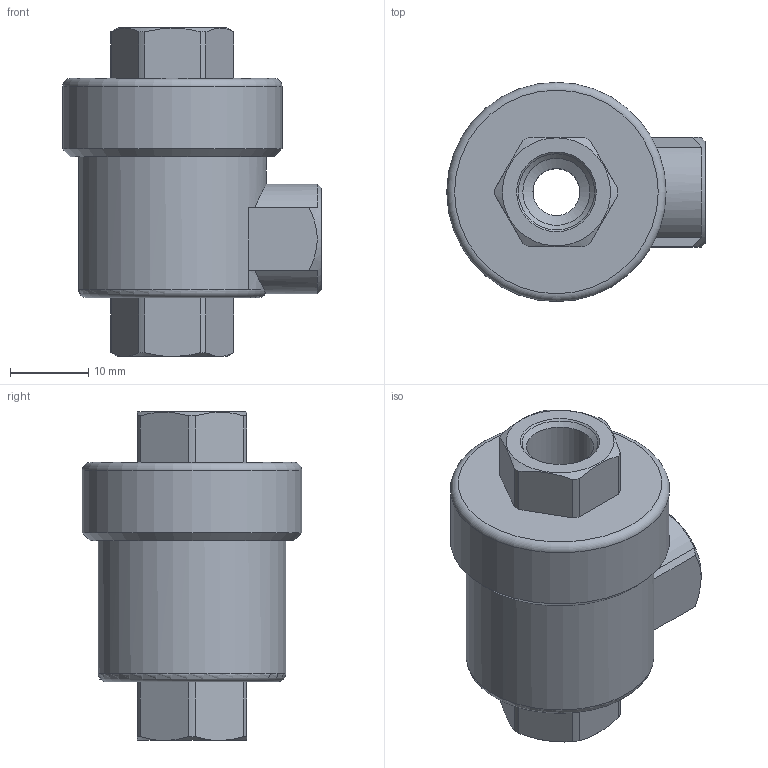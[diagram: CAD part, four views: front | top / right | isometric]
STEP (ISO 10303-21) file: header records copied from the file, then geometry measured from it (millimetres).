
FILE_DESCRIPTION(('Bauteilbeschreibung','HiCAD-Model','HiCAD-STEP-TRANSLATION','Bauteilbeschreibung'),'2;1');
FILE_NAME('B:/ABGLEICH/ZEICHNUNGEN/STEP FÜR INTERNET/STEP/SCHNELLENTLÜFTUNGSVENTIL VSR/60501_VSR_1-8.STP','2012-04-17T10:57:17+00:00',('Konstrukteur'),('Konstrukteur Firma GmbH'),' HiCAD neXt 2008, Step 3.1.1401.2J ','HiCAD neXt 2008','confidential');
FILE_SCHEMA(('AUTOMOTIVE_DESIGN { 1 2 10303 214 0 1 1 1 }'));
Length unit declared in the file: millimetre
Products named in the file (10): A0501_VSR_1_8; A0501_DECKEL; A05010DECKEL; DIN 13_M24; G 1_8; A0501_K_RPER; A05010K0RPER; DIN0130M24; G0108; G01080
Assembly tree (9 placements, depth 3):
  A0501_VSR_1_8
    A0501_DECKEL
    A05010DECKEL
      DIN 13_M24
      G 1_8
    A0501_K_RPER
    A05010K0RPER
      DIN0130M24
      G0108
      G01080
Bounding box: 33 x 28 x 42 mm (x, y, z)
Volume: 11772.3 mm3; surface area: 12828.2 mm2
Topology: 7 solids, 7 shells, 101 faces, 235 edges, 154 vertices
Faces by surface type: cylinder 40, plane 39, cone 19, torus 3
Full cylindrical faces by diameter (mm): 6 x3, 8.566 x6, 9.728 x6, 10 x1, 18.4 x1, 20.319 x3, 24 x4, 28 x1
Entity records: 4574 total; most frequent: CARTESIAN_POINT 1473, DIRECTION 472, ORIENTED_EDGE 340, AXIS2_PLACEMENT_3D 213, COLOUR_RGB 172, PRESENTATION_STYLE_ASSIGNMENT 172, EDGE_CURVE 170, CURVE_STYLE 165
